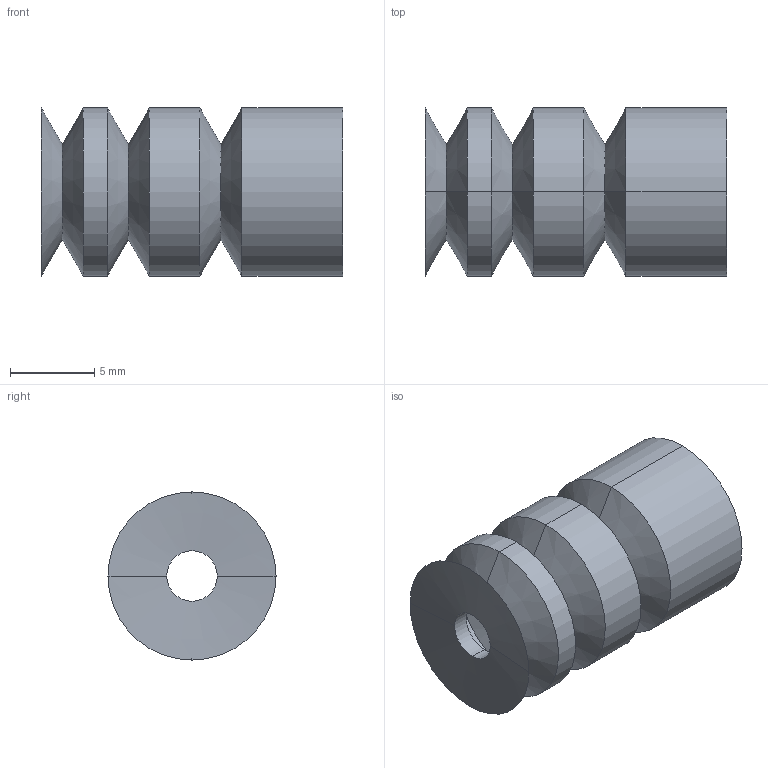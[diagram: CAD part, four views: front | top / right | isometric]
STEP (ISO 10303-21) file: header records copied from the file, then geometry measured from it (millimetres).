
FILE_DESCRIPTION (( 'STEP AP214' ), '1' );
FILE_NAME ('VSH-10R-3.STEP', '2019-11-14T01:42:39', ( '微软用户' ), ( '微软中国' ), 'SwSTEP 2.0', 'SolidWorks 2016', '' );
FILE_SCHEMA (( 'AUTOMOTIVE_DESIGN' ));
Length unit declared in the file: millimetre
Products named in the file (1): VSH-10R-3
Bounding box: 17.93 x 10 x 10 mm (x, y, z)
Volume: 579.4 mm3; surface area: 1325.8 mm2
Topology: 1 solids, 1 shells, 45 faces, 96 edges, 54 vertices
Faces by surface type: cone 24, cylinder 18, plane 3
Entity records: 1242 total; most frequent: DIRECTION 242, CARTESIAN_POINT 196, ORIENTED_EDGE 192, AXIS2_PLACEMENT_3D 100, EDGE_CURVE 96, CIRCLE 54, VERTEX_POINT 54, EDGE_LOOP 48
